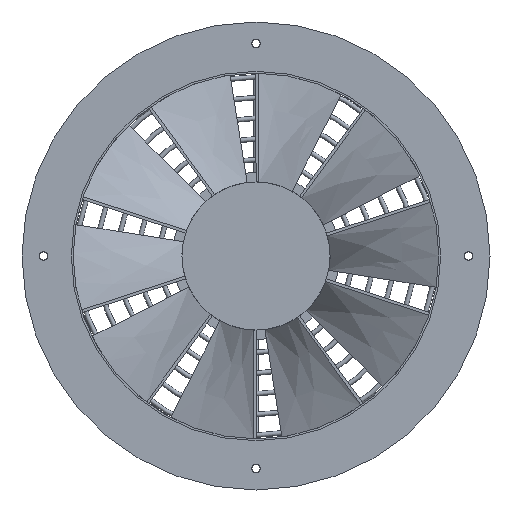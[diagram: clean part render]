
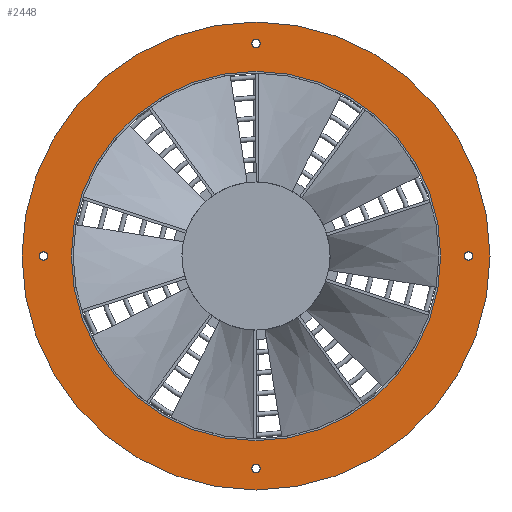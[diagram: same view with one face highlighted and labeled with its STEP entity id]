
A CAD part, left-side view. The second image highlights one B-rep face of the part: STEP entity #2448.
In plain terms, the highlighted planar face has unit normal (-1, 0, 0).
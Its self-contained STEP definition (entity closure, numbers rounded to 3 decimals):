
#190=FACE_BOUND('',#819,.T.);
#191=FACE_BOUND('',#820,.T.);
#192=FACE_BOUND('',#821,.T.);
#193=FACE_BOUND('',#822,.T.);
#194=FACE_BOUND('',#823,.T.);
#587=PLANE('',#2650);
#672=FACE_OUTER_BOUND('',#818,.T.);
#818=EDGE_LOOP('',(#1989,#1990));
#819=EDGE_LOOP('',(#1991));
#820=EDGE_LOOP('',(#1992));
#821=EDGE_LOOP('',(#1993));
#822=EDGE_LOOP('',(#1994));
#823=EDGE_LOOP('',(#1995,#1996));
#922=CIRCLE('',#2631,202.);
#923=CIRCLE('',#2632,202.);
#936=CIRCLE('',#2648,256.);
#937=CIRCLE('',#2649,256.);
#938=CIRCLE('',#2651,4.5);
#939=CIRCLE('',#2652,4.5);
#940=CIRCLE('',#2653,4.5);
#941=CIRCLE('',#2654,4.5);
#1100=VERTEX_POINT('',#4070);
#1101=VERTEX_POINT('',#4071);
#1126=VERTEX_POINT('',#4120);
#1127=VERTEX_POINT('',#4122);
#1128=VERTEX_POINT('',#4126);
#1129=VERTEX_POINT('',#4128);
#1130=VERTEX_POINT('',#4130);
#1131=VERTEX_POINT('',#4132);
#1408=EDGE_CURVE('',#1100,#1101,#922,.T.);
#1409=EDGE_CURVE('',#1101,#1100,#923,.T.);
#1430=EDGE_CURVE('',#1126,#1127,#936,.T.);
#1431=EDGE_CURVE('',#1127,#1126,#937,.T.);
#1432=EDGE_CURVE('',#1128,#1128,#938,.T.);
#1433=EDGE_CURVE('',#1129,#1129,#939,.T.);
#1434=EDGE_CURVE('',#1130,#1130,#940,.T.);
#1435=EDGE_CURVE('',#1131,#1131,#941,.T.);
#1989=ORIENTED_EDGE('',*,*,#1431,.F.);
#1990=ORIENTED_EDGE('',*,*,#1430,.F.);
#1991=ORIENTED_EDGE('',*,*,#1432,.T.);
#1992=ORIENTED_EDGE('',*,*,#1433,.T.);
#1993=ORIENTED_EDGE('',*,*,#1434,.T.);
#1994=ORIENTED_EDGE('',*,*,#1435,.T.);
#1995=ORIENTED_EDGE('',*,*,#1408,.T.);
#1996=ORIENTED_EDGE('',*,*,#1409,.T.);
#2448=ADVANCED_FACE('',(#672,#190,#191,#192,#193,#194),#587,.T.);
#2631=AXIS2_PLACEMENT_3D('',#4072,#2995,#2996);
#2632=AXIS2_PLACEMENT_3D('',#4073,#2997,#2998);
#2648=AXIS2_PLACEMENT_3D('',#4123,#3037,#3038);
#2649=AXIS2_PLACEMENT_3D('',#4124,#3039,#3040);
#2650=AXIS2_PLACEMENT_3D('',#4125,#3041,#3042);
#2651=AXIS2_PLACEMENT_3D('',#4127,#3043,#3044);
#2652=AXIS2_PLACEMENT_3D('',#4129,#3045,#3046);
#2653=AXIS2_PLACEMENT_3D('',#4131,#3047,#3048);
#2654=AXIS2_PLACEMENT_3D('',#4133,#3049,#3050);
#2995=DIRECTION('center_axis',(1.,0.,0.));
#2996=DIRECTION('ref_axis',(0.,0.,-1.));
#2997=DIRECTION('center_axis',(1.,0.,0.));
#2998=DIRECTION('ref_axis',(0.,0.,-1.));
#3037=DIRECTION('center_axis',(1.,0.,0.));
#3038=DIRECTION('ref_axis',(0.,0.,-1.));
#3039=DIRECTION('center_axis',(1.,0.,0.));
#3040=DIRECTION('ref_axis',(0.,0.,-1.));
#3041=DIRECTION('center_axis',(-1.,0.,0.));
#3042=DIRECTION('ref_axis',(0.,0.,1.));
#3043=DIRECTION('center_axis',(1.,0.,0.));
#3044=DIRECTION('ref_axis',(0.,1.,0.));
#3045=DIRECTION('center_axis',(1.,0.,0.));
#3046=DIRECTION('ref_axis',(0.,0.,-1.));
#3047=DIRECTION('center_axis',(1.,0.,0.));
#3048=DIRECTION('ref_axis',(0.,-1.,0.));
#3049=DIRECTION('center_axis',(1.,0.,0.));
#3050=DIRECTION('ref_axis',(0.,0.,1.));
#4070=CARTESIAN_POINT('',(70.,202.,0.));
#4071=CARTESIAN_POINT('',(70.,-202.,0.));
#4072=CARTESIAN_POINT('Origin',(70.,0.,0.));
#4073=CARTESIAN_POINT('Origin',(70.,0.,0.));
#4120=CARTESIAN_POINT('',(70.,-256.,0.));
#4122=CARTESIAN_POINT('',(70.,256.,0.));
#4123=CARTESIAN_POINT('Origin',(70.,0.,0.));
#4124=CARTESIAN_POINT('Origin',(70.,0.,0.));
#4125=CARTESIAN_POINT('Origin',(70.,256.,0.));
#4126=CARTESIAN_POINT('',(70.,-237.,0.));
#4127=CARTESIAN_POINT('Origin',(70.,-232.5,0.));
#4128=CARTESIAN_POINT('',(70.,0.,237.));
#4129=CARTESIAN_POINT('Origin',(70.,0.,232.5));
#4130=CARTESIAN_POINT('',(70.,237.,0.));
#4131=CARTESIAN_POINT('Origin',(70.,232.5,0.));
#4132=CARTESIAN_POINT('',(70.,0.,-237.));
#4133=CARTESIAN_POINT('Origin',(70.,0.,-232.5));
